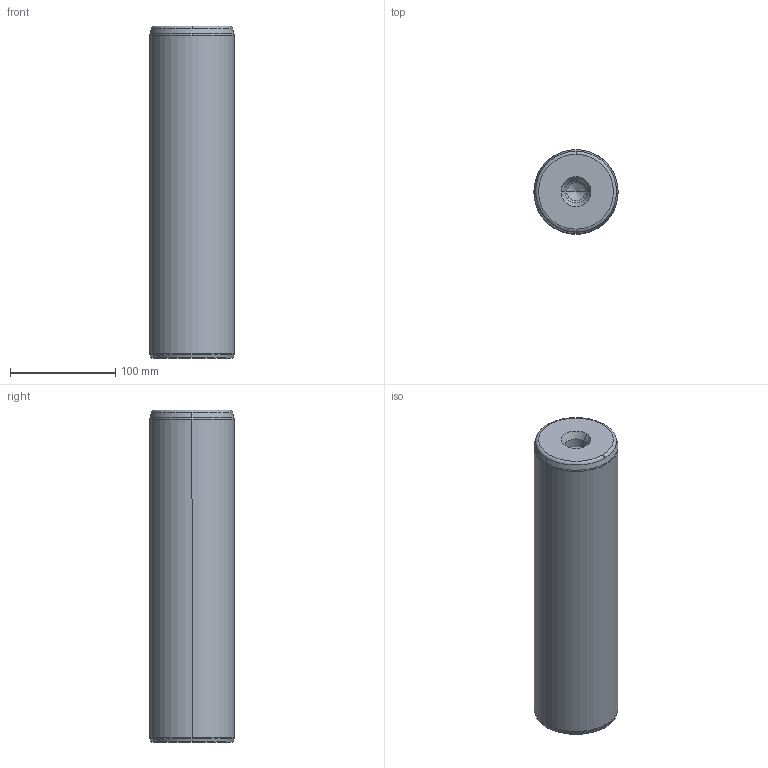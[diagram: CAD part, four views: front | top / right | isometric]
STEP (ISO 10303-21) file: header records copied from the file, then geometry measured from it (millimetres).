
FILE_DESCRIPTION((''),'2;1');
FILE_NAME('P10_080_315.stp','2008-12-23T15:08:08',(''),(''),'Mechanical Desktop 2009','Mechanical Desktop 2009',', , ');
FILE_SCHEMA(('CONFIG_CONTROL_DESIGN'));
Length unit declared in the file: millimetre
Products named in the file (5): Product; ProductAA; blmdl1; ProductA; blmdl1A
Assembly tree (2 placements, depth 3):
  Product
    ProductAA
      blmdl1
  ProductA
  blmdl1A
Bounding box: 80 x 80 x 315 mm (x, y, z)
Volume: 1564881.5 mm3; surface area: 91243.2 mm2
Topology: 1 solids, 1 shells, 26 faces, 66 edges, 41 vertices
Faces by surface type: cone 10, torus 8, cylinder 6, plane 2
Entity records: 1012 total; most frequent: DIRECTION 170, CARTESIAN_POINT 134, ORIENTED_EDGE 128, AXIS2_PLACEMENT_3D 77, EDGE_CURVE 64, CIRCLE 48, VERTEX_POINT 41, EDGE_LOOP 27
